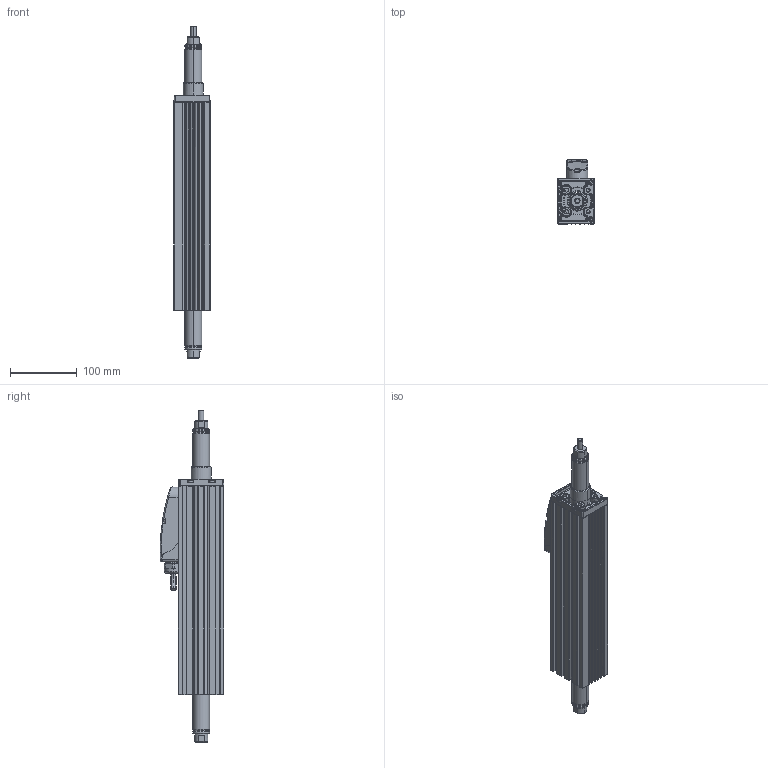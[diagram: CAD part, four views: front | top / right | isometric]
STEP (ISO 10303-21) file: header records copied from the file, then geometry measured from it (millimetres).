
FILE_DESCRIPTION (( 'STEP AP203' ), '1' );
FILE_NAME ('STA2510-104.STEP', '2011-10-13T13:17:22', ( 'showsden' ), ( '' ), 'SwSTEP 2.0', 'SolidWorks 2011', '' );
FILE_SCHEMA (( 'CONFIG_CONTROL_DESIGN' ));
Length unit declared in the file: millimetre
Products named in the file (14): STA2510-104; TRA25 Thrust Rod - Solid_TRA2510 (104); Screw, Cap Head, M4_Screw, Cap Head, M4 x 16; STA25 Bearing End Support - Solid_MP02261; STA25 MOTOR HOUSING (REV-B)_STA2510; ST25 POD ASSEMBLY (DLS)_ST25 POD ASSEMBLY (SOLID); MP02254-D ST25 Pod Base Gasket_MP02254; ST25 CABLE ASSEMBLY (REV2)_MA02197 (FLEXING); POWER CABLE_FLEXING (POWER); SIGNAL CABLE_FLEXING (SIGNAL); PG16 Gland Nut (REV2)_PG16 (REV 2); Screw, Button Head, M3_Screw, Button Head, M3 x 10; Screw, Cap Head, M2.5_Screw, Cap Head, M2.5 x 6; ST25 POD (DLS)_ST25 POD (SOLID)
Assembly tree (20 placements, depth 4):
  STA2510-104
    Screw, Cap Head, M4_Screw, Cap Head, M4 x 16  x4
    ST25 POD ASSEMBLY (DLS)_ST25 POD ASSEMBLY (SOLID)
      Screw, Cap Head, M2.5_Screw, Cap Head, M2.5 x 6  x2
      Screw, Button Head, M3_Screw, Button Head, M3 x 10  x4
      MP02254-D ST25 Pod Base Gasket_MP02254
      ST25 POD (DLS)_ST25 POD (SOLID)
      ST25 CABLE ASSEMBLY (REV2)_MA02197 (FLEXING)
        SIGNAL CABLE_FLEXING (SIGNAL)
        POWER CABLE_FLEXING (POWER)
        PG16 Gland Nut (REV2)_PG16 (REV 2)
    TRA25 Thrust Rod - Solid_TRA2510 (104)
    STA25 Bearing End Support - Solid_MP02261
    STA25 MOTOR HOUSING (REV-B)_STA2510
Bounding box: 54 x 95.5 x 497 mm (x, y, z)
Volume: 1131250.6 mm3; surface area: 272884.7 mm2
Topology: 18 solids, 18 shells, 1636 faces, 4226 edges, 2687 vertices
Faces by surface type: plane 567, cylinder 516, bspline 365, cone 116, torus 56, sphere 16
Entity records: 75343 total; most frequent: CARTESIAN_POINT 39247, ORIENTED_EDGE 7888, DIRECTION 6221, EDGE_CURVE 3944, VERTEX_POINT 2531, AXIS2_PLACEMENT_3D 2326, EDGE_LOOP 1659, LINE 1569
